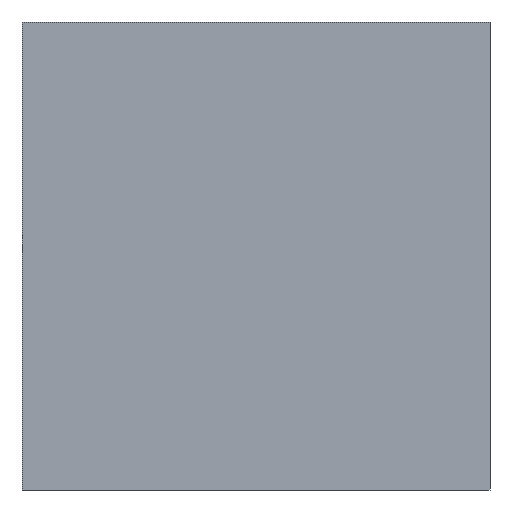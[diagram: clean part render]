
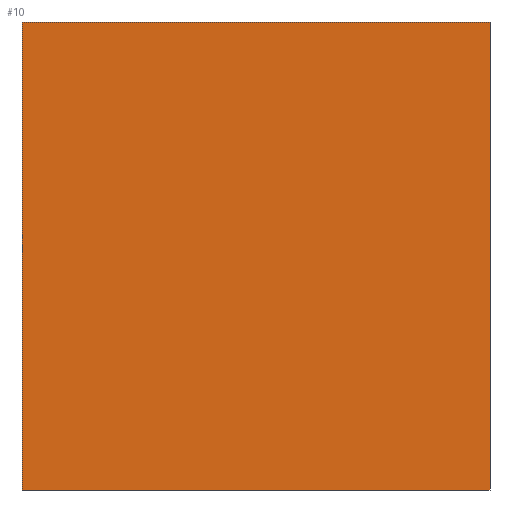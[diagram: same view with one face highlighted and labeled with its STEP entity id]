
A CAD part, front view. The second image highlights one B-rep face of the part: STEP entity #10.
In plain terms, the highlighted planar face has unit normal (0, -1, 0).
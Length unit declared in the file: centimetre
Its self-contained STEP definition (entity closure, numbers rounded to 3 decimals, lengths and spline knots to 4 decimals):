
#10 = ADVANCED_FACE ( 'NONE', ( #410 ), #112, .F. ) ;
#17 = VECTOR ( 'NONE', #87, 100. ) ;
#44 = CARTESIAN_POINT ( 'NONE',  ( 1000., 0., 1000. ) ) ;
#87 = DIRECTION ( 'NONE',  ( 0., 0., -1. ) ) ;
#91 = LINE ( 'NONE', #633, #17 ) ;
#112 = PLANE ( 'NONE',  #507 ) ;
#125 = ORIENTED_EDGE ( 'NONE', *, *, #487, .T. ) ;
#142 = CARTESIAN_POINT ( 'NONE',  ( 0., 0., 1000. ) ) ;
#155 = ORIENTED_EDGE ( 'NONE', *, *, #384, .F. ) ;
#158 = CARTESIAN_POINT ( 'NONE',  ( 1000., 0., 0. ) ) ;
#190 = CARTESIAN_POINT ( 'NONE',  ( 0., 0., 1000. ) ) ;
#245 = VERTEX_POINT ( 'NONE', #190 ) ;
#308 = LINE ( 'NONE', #142, #658 ) ;
#322 = DIRECTION ( 'NONE',  ( 1., 0., 0. ) ) ;
#353 = VERTEX_POINT ( 'NONE', #515 ) ;
#380 = DIRECTION ( 'NONE',  ( 0., 0., -1. ) ) ;
#384 = EDGE_CURVE ( 'NONE', #570, #647, #91, .T. ) ;
#394 = CARTESIAN_POINT ( 'NONE',  ( 0., 0., 0. ) ) ;
#410 = FACE_OUTER_BOUND ( 'NONE', #722, .T. ) ;
#413 = CARTESIAN_POINT ( 'NONE',  ( 0., 0., 1000. ) ) ;
#420 = DIRECTION ( 'NONE',  ( 0., 0., 1. ) ) ;
#430 = CARTESIAN_POINT ( 'NONE',  ( 0., 0., 1000. ) ) ;
#487 = EDGE_CURVE ( 'NONE', #245, #353, #749, .T. ) ;
#507 = AXIS2_PLACEMENT_3D ( 'NONE', #413, #656, #420 ) ;
#515 = CARTESIAN_POINT ( 'NONE',  ( 0., 0., 0. ) ) ;
#533 = EDGE_CURVE ( 'NONE', #245, #570, #308, .T. ) ;
#570 = VERTEX_POINT ( 'NONE', #44 ) ;
#610 = ORIENTED_EDGE ( 'NONE', *, *, #533, .F. ) ;
#633 = CARTESIAN_POINT ( 'NONE',  ( 1000., 0., 1000. ) ) ;
#637 = DIRECTION ( 'NONE',  ( 1., 0., 0. ) ) ;
#647 = VERTEX_POINT ( 'NONE', #158 ) ;
#649 = VECTOR ( 'NONE', #380, 100. ) ;
#656 = DIRECTION ( 'NONE',  ( 0., 1., 0. ) ) ;
#658 = VECTOR ( 'NONE', #322, 100. ) ;
#696 = LINE ( 'NONE', #394, #753 ) ;
#722 = EDGE_LOOP ( 'NONE', ( #730, #155, #610, #125 ) ) ;
#723 = EDGE_CURVE ( 'NONE', #353, #647, #696, .T. ) ;
#730 = ORIENTED_EDGE ( 'NONE', *, *, #723, .T. ) ;
#749 = LINE ( 'NONE', #430, #649 ) ;
#753 = VECTOR ( 'NONE', #637, 100. ) ;
